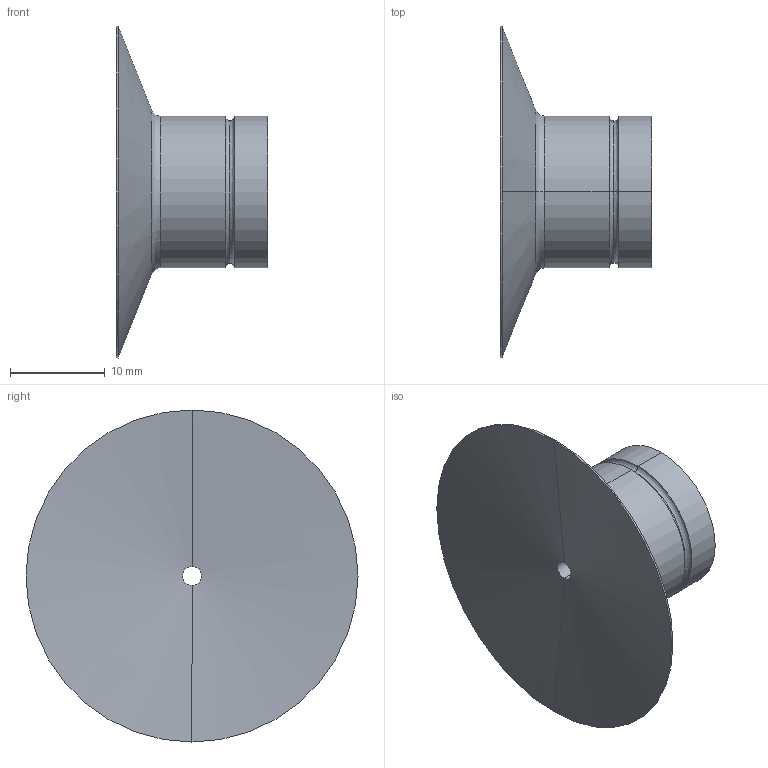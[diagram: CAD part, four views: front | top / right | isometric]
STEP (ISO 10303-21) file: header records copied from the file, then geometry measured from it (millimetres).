
FILE_DESCRIPTION (( 'STEP AP214' ), '1' );
FILE_NAME ('VSH-35R.STEP', '2019-11-14T01:37:51', ( '微软用户' ), ( '微软中国' ), 'SwSTEP 2.0', 'SolidWorks 2016', '' );
FILE_SCHEMA (( 'AUTOMOTIVE_DESIGN' ));
Length unit declared in the file: millimetre
Products named in the file (1): VSH-35R
Bounding box: 16 x 35 x 35 mm (x, y, z)
Volume: 3736.2 mm3; surface area: 2931.2 mm2
Topology: 1 solids, 1 shells, 25 faces, 50 edges, 28 vertices
Faces by surface type: cylinder 12, bspline 6, cone 4, plane 3
Entity records: 748 total; most frequent: CARTESIAN_POINT 212, DIRECTION 112, ORIENTED_EDGE 100, EDGE_CURVE 50, AXIS2_PLACEMENT_3D 48, EDGE_LOOP 28, VERTEX_POINT 28, CIRCLE 28
